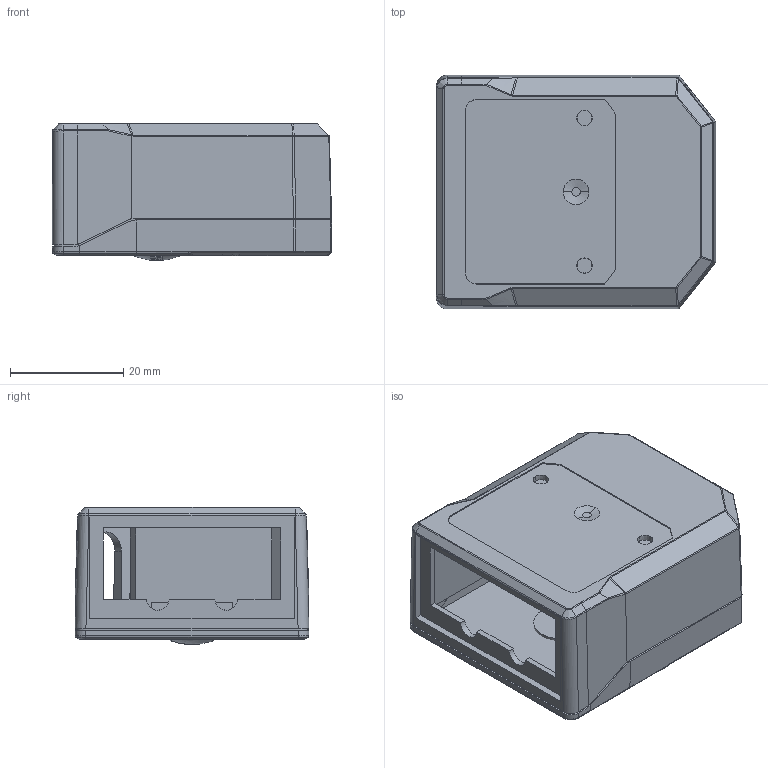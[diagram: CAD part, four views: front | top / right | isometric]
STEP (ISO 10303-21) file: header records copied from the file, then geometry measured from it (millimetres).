
FILE_DESCRIPTION((''),'2;1');
FILE_NAME('LV3000H_-_3D__ASM','2021-07-16T',('Administrator'),(''),'PRO/ENGINEER BY PARAMETRIC TECHNOLOGY CORPORATION, 2009360','PRO/ENGINEER BY PARAMETRIC TECHNOLOGY CORPORATION, 2009360','');
FILE_SCHEMA(('CONFIG_CONTROL_DESIGN'));
Length unit declared in the file: millimetre
Products named in the file (6): 3-26-MM-01_46_16; 3-25-MM-02_74_12; 3-25-MM-03_14_1; 3-25-MM-ZP_ASM_12_ASM_1_ASM; 3-25-MM-ZP_ASM_ASM_14_ASM; LV3000H_-_3D__ASM
Assembly tree (5 placements, depth 4):
  LV3000H_-_3D__ASM
    3-25-MM-ZP_ASM_ASM_14_ASM
      3-25-MM-ZP_ASM_12_ASM_1_ASM
        3-26-MM-01_46_16
        3-25-MM-02_74_12
        3-25-MM-03_14_1
Bounding box: 49.2 x 41.21 x 24.15 mm (x, y, z)
Volume: 13335.9 mm3; surface area: 15037.5 mm2
Topology: 3 solids, 3 shells, 621 faces, 1698 edges, 1102 vertices
Faces by surface type: plane 363, cylinder 164, bspline 56, cone 23, sphere 7, torus 6, extrusion 2
Entity records: 21628 total; most frequent: CARTESIAN_POINT 5913, ORIENTED_EDGE 3390, DIRECTION 3157, EDGE_CURVE 1695, AXIS2_PLACEMENT_3D 1110, VERTEX_POINT 1102, VECTOR 937, LINE 935
